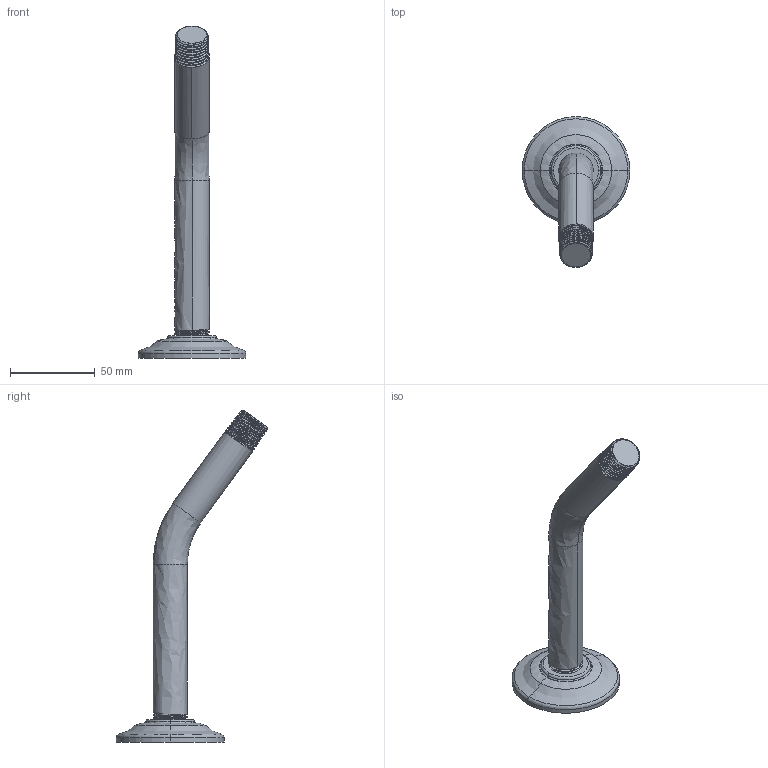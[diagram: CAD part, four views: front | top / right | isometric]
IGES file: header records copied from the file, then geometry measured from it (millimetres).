
Start section:  PTC IGES file: sku_s153.igs
Global section: file name: sku_s153.igs; native system: Pro/ENGINEER by Parametric Technology Corporation; preprocessor: 2006460; author: 9dutterb; organization: Unknown; date: 20071031.093602; units: inch
Bounding box: 63.5 x 89.18 x 195.64 mm (x, y, z)
Surface area: 25376.9 mm2 (no closed solid volume)
Topology: 0 solids, 0 shells, 75 faces, 362 edges, 362 vertices
Faces by surface type: revolution 59, bspline 16
